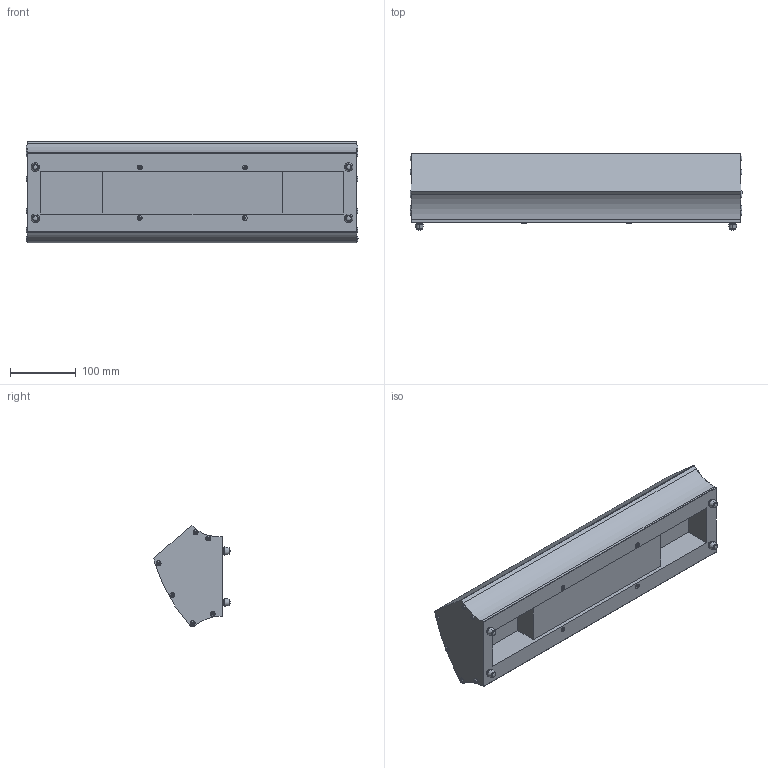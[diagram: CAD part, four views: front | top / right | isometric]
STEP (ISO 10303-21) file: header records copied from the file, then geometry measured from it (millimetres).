
FILE_DESCRIPTION (( 'STEP AP203' ), '1' );
FILE_NAME ('Dalis-862-2_3D_customer.stp', '2017-06-16T09:14:28', ( '' ), ( '' ), 'SwSTEP 2.0', 'SolidWorks 2017', '' );
FILE_SCHEMA (( 'CONFIG_CONTROL_DESIGN' ));
Length unit declared in the file: millimetre
Products named in the file (1): Dalis-862-2_3D_customer
Bounding box: 505.4 x 116.58 x 154.48 mm (x, y, z)
Volume: 5055882.5 mm3; surface area: 263751 mm2
Topology: 1 solids, 1 shells, 310 faces, 809 edges, 518 vertices
Faces by surface type: plane 113, cylinder 73, bspline 60, cone 40, torus 24
Entity records: 10920 total; most frequent: CARTESIAN_POINT 3458, ORIENTED_EDGE 1570, DIRECTION 1541, EDGE_CURVE 785, AXIS2_PLACEMENT_3D 621, VERTEX_POINT 518, CIRCLE 370, EDGE_LOOP 351
